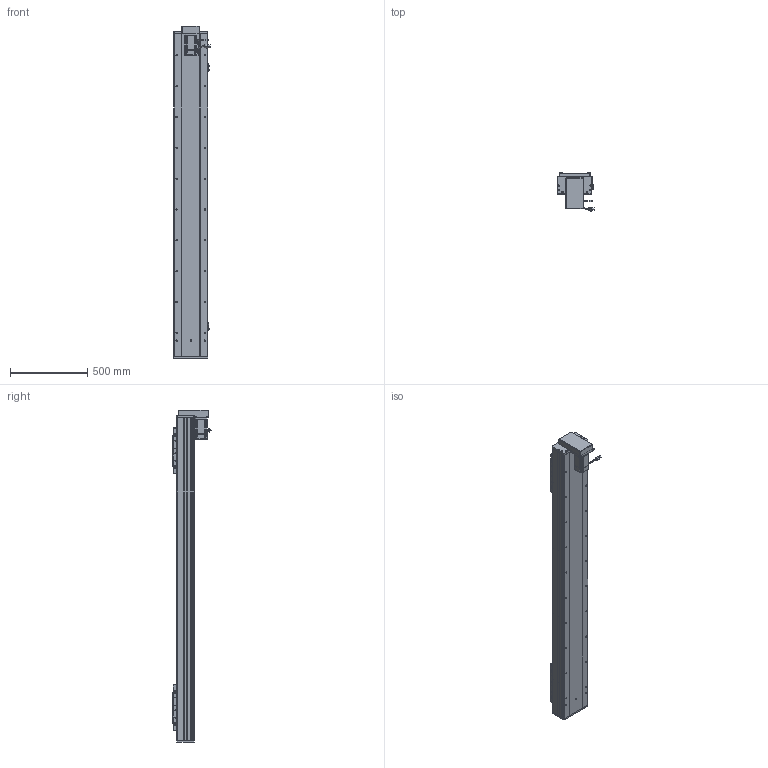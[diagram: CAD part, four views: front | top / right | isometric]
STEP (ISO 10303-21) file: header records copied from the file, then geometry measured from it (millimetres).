
FILE_DESCRIPTION (( 'STEP AP203' ), '1' );
FILE_NAME ('RY220F-L2525-800-BK-邧嶺.SLDASM_1650.step', '2022-08-06T08:08:22', ( '' ), ( '' ), 'SwSTEP 2.0', 'SolidWorks 2016', '' );
FILE_SCHEMA (( 'CONFIG_CONTROL_DESIGN' ));
Length unit declared in the file: millimetre
Products named in the file (15): RY220F臏賑釱25-32佪裝; RY220F-詩湍揤踡輸; 覜茼ん672; RY220F-祥凄詩湍-蛌殏-800_1650; 怢湛750W_ECMA-CX0807ES; 侐源滅袉蝶; RY220F-蛌殏奻裔啣-800_1650; RY220F-滅鳥奻裔; RY220狟殏萇儂假蚾啣; RY220F蛌殏菁釱-800-邧嶺_1650; RY220F-672覜茼んえ; RY220F綴裔啣; 滅袉蝶18-24; RY220F-L2525-800-BK-邧嶺.SLDASM_1650; RY220狟殏萇儂欶
Assembly tree (24 placements, depth 2):
  RY220F-L2525-800-BK-邧嶺.SLDASM_1650
    RY220F蛌殏菁釱-800-邧嶺_1650
    RY220F-蛌殏奻裔啣-800_1650  x2
    怢湛750W_ECMA-CX0807ES
    RY220F臏賑釱25-32佪裝  x2
    RY220F-滅鳥奻裔  x2
    滅袉蝶18-24  x3
    RY220F綴裔啣
    RY220F-祥凄詩湍-蛌殏-800_1650
    RY220F-詩湍揤踡輸  x2
    覜茼ん672  x3
    RY220F-672覜茼んえ  x2
    侐源滅袉蝶  x2
    RY220狟殏萇儂假蚾啣
    RY220狟殏萇儂欶
Bounding box: 237.27 x 247.24 x 2153 mm (x, y, z)
Volume: 18887510.9 mm3; surface area: 4963191.5 mm2
Topology: 25 solids, 25 shells, 2875 faces, 7798 edges, 4799 vertices
Faces by surface type: cylinder 1290, plane 1062, cone 452, bspline 45, sphere 16, torus 10
Entity records: 71541 total; most frequent: CARTESIAN_POINT 19129, ORIENTED_EDGE 10562, DIRECTION 10357, EDGE_CURVE 5281, AXIS2_PLACEMENT_3D 3694, VERTEX_POINT 3415, VECTOR 2969, LINE 2969
